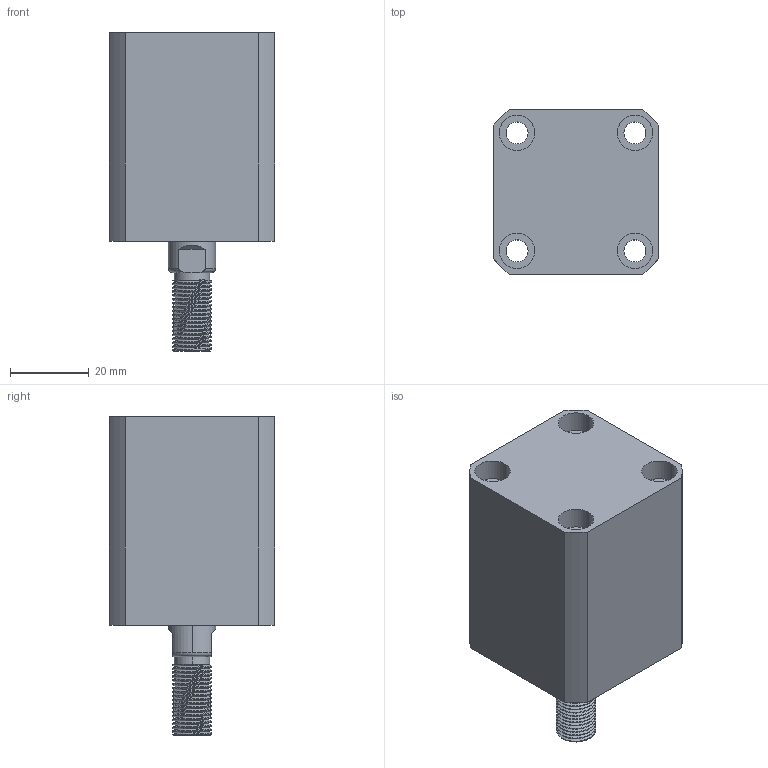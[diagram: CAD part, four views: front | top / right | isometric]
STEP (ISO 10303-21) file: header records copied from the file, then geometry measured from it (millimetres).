
FILE_DESCRIPTION (( 'STEP AP214' ), '1' );
FILE_NAME ('chtb-sd20x10w_asm.STEP', '2018-05-16T09:16:51', ( 'Windows' ), ( 'Microsoft' ), 'SwSTEP 2.0', 'SolidWorks 2015', '' );
FILE_SCHEMA (( 'AUTOMOTIVE_DESIGN' ));
Length unit declared in the file: millimetre
Products named in the file (4): QG; CHTB-SD20X10WHSG; CHTB-SD20X10NBT; chtb-sd20x10w_asm
Assembly tree (3 placements, depth 2):
  chtb-sd20x10w_asm
    CHTB-SD20X10NBT
    CHTB-SD20X10WHSG
    QG
Bounding box: 42 x 42 x 81 mm (x, y, z)
Volume: 82300.4 mm3; surface area: 28580.2 mm2
Topology: 3 solids, 3 shells, 234 faces, 624 edges, 415 vertices
Faces by surface type: cylinder 139, plane 40, torus 25, bspline 21, cone 9
Entity records: 13734 total; most frequent: CARTESIAN_POINT 8172, ORIENTED_EDGE 1240, DIRECTION 1039, EDGE_CURVE 620, AXIS2_PLACEMENT_3D 431, VERTEX_POINT 415, EDGE_LOOP 271, FACE_OUTER_BOUND 234
